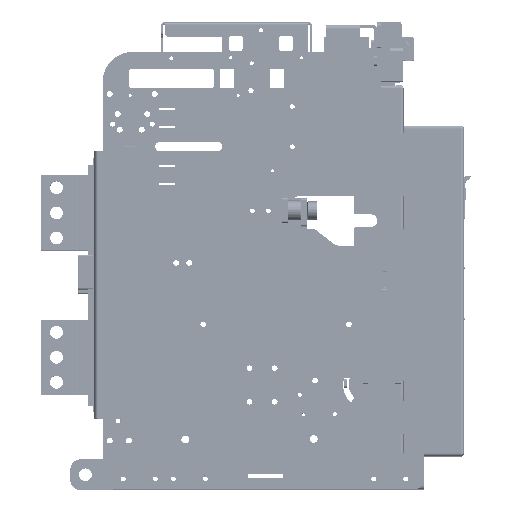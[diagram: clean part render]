
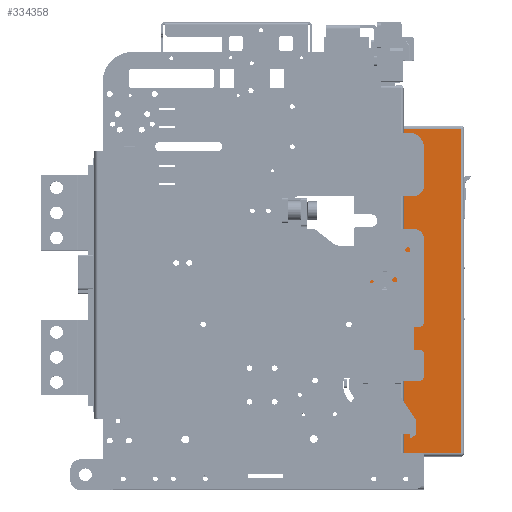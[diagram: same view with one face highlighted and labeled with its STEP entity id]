
A CAD part, top view. The second image highlights one B-rep face of the part: STEP entity #334358.
In plain terms, the highlighted planar face has unit normal (0, 0, 1) as drawn and (-1, 0, 0) by its records, which use the part's own axes.
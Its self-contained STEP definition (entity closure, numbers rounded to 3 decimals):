
#316687=DIRECTION('',(0.,0.,1.));
#316688=VECTOR('',#316687,34.);
#316689=CARTESIAN_POINT('',(-135.,-0.25,13.));
#316690=LINE('',#316689,#316688);
#316691=DIRECTION('',(0.,0.,-1.));
#316692=VECTOR('',#316691,57.);
#316693=CARTESIAN_POINT('',(-135.,148.35,106.));
#316694=LINE('',#316693,#316692);
#316695=DIRECTION('',(0.,-1.,0.));
#316696=VECTOR('',#316695,324.);
#316697=CARTESIAN_POINT('',(-135.,148.35,106.));
#316698=LINE('',#316697,#316696);
#316699=DIRECTION('',(0.,0.,-1.));
#316700=VECTOR('',#316699,57.);
#316701=CARTESIAN_POINT('',(-135.,-175.65,106.));
#316702=LINE('',#316701,#316700);
#316703=DIRECTION('',(0.,0.,1.));
#316704=VECTOR('',#316703,34.);
#316705=CARTESIAN_POINT('',(-135.,-6.65,13.));
#316706=LINE('',#316705,#316704);
#316717=CARTESIAN_POINT('',(-135.,-0.25,47.));
#316718=CARTESIAN_POINT('',(-135.,0.171,47.281));
#316719=CARTESIAN_POINT('',(-135.,0.981,47.819));
#316720=CARTESIAN_POINT('',(-135.,2.174,48.476));
#316721=CARTESIAN_POINT('',(-135.,3.346,48.901));
#316722=CARTESIAN_POINT('',(-135.,4.081,49.));
#316723=CARTESIAN_POINT('',(-135.,4.44,49.));
#317048=DIRECTION('',(0.,-1.,0.));
#317049=VECTOR('',#317048,164.31);
#317050=CARTESIAN_POINT('',(-135.,-11.34,49.));
#317051=LINE('',#317050,#317049);
#317073=DIRECTION('',(0.,-1.,0.));
#317074=VECTOR('',#317073,143.91);
#317075=CARTESIAN_POINT('',(-135.,148.35,49.));
#317076=LINE('',#317075,#317074);
#322656=DIRECTION('',(0.,-1.,0.));
#322657=VECTOR('',#322656,6.4);
#322658=CARTESIAN_POINT('',(-135.,-0.25,13.));
#322659=LINE('',#322658,#322657);
#322752=CARTESIAN_POINT('',(-135.,-11.34,49.));
#322753=CARTESIAN_POINT('',(-135.,-10.981,49.));
#322754=CARTESIAN_POINT('',(-135.,-10.245,48.901));
#322755=CARTESIAN_POINT('',(-135.,-9.073,48.476));
#322756=CARTESIAN_POINT('',(-135.,-7.881,47.819));
#322757=CARTESIAN_POINT('',(-135.,-7.071,47.281));
#322758=CARTESIAN_POINT('',(-135.,-6.65,47.));
#325733=CARTESIAN_POINT('',(-135.,-175.65,106.));
#325735=VERTEX_POINT('',#325733);
#325759=CARTESIAN_POINT('',(-135.,-175.65,49.));
#325760=VERTEX_POINT('',#325759);
#325763=CARTESIAN_POINT('',(-135.,148.35,106.));
#325764=VERTEX_POINT('',#325763);
#325781=CARTESIAN_POINT('',(-135.,148.35,49.));
#325782=VERTEX_POINT('',#325781);
#327616=CARTESIAN_POINT('',(-135.,-0.25,13.));
#327618=VERTEX_POINT('',#327616);
#327621=CARTESIAN_POINT('',(-135.,-6.65,13.));
#327623=VERTEX_POINT('',#327621);
#327933=CARTESIAN_POINT('',(-135.,-11.34,49.));
#327935=VERTEX_POINT('',#327933);
#327937=CARTESIAN_POINT('',(-135.,-6.65,47.));
#327939=VERTEX_POINT('',#327937);
#327957=CARTESIAN_POINT('',(-135.,-0.25,47.));
#327959=VERTEX_POINT('',#327957);
#327961=CARTESIAN_POINT('',(-135.,4.44,49.));
#327963=VERTEX_POINT('',#327961);
#334332=CARTESIAN_POINT('',(-135.,151.35,49.));
#334333=DIRECTION('',(-1.,0.,0.));
#334334=DIRECTION('',(0.,-1.,0.));
#334335=AXIS2_PLACEMENT_3D('',#334332,#334333,#334334);
#334336=PLANE('',#334335);
#334338=ORIENTED_EDGE('',*,*,#334337,.T.);
#334340=ORIENTED_EDGE('',*,*,#334339,.T.);
#334342=ORIENTED_EDGE('',*,*,#334341,.F.);
#334344=ORIENTED_EDGE('',*,*,#334343,.F.);
#334345=ORIENTED_EDGE('',*,*,#334324,.T.);
#334347=ORIENTED_EDGE('',*,*,#334346,.T.);
#334349=ORIENTED_EDGE('',*,*,#334348,.F.);
#334351=ORIENTED_EDGE('',*,*,#334350,.T.);
#334353=ORIENTED_EDGE('',*,*,#334352,.F.);
#334355=ORIENTED_EDGE('',*,*,#334354,.F.);
#334356=EDGE_LOOP('',(#334338,#334340,#334342,#334344,#334345,#334347,#334349,
#334351,#334353,#334355));
#334357=FACE_OUTER_BOUND('',#334356,.F.);
#334358=ADVANCED_FACE('',(#334357),#334336,.T.);
#316724=B_SPLINE_CURVE_WITH_KNOTS('',3,(#316717,#316718,#316719,#316720,#316721,
#316722,#316723),.UNSPECIFIED.,.F.,.F.,(4,1,1,1,4),(0.,0.25,0.5,0.75,
1.),.UNSPECIFIED.);
#322759=B_SPLINE_CURVE_WITH_KNOTS('',3,(#322752,#322753,#322754,#322755,#322756,
#322757,#322758),.UNSPECIFIED.,.F.,.F.,(4,1,1,1,4),(0.,0.25,0.5,0.75,
1.),.UNSPECIFIED.);
#334324=EDGE_CURVE('',#325764,#325735,#316698,.T.);
#334337=EDGE_CURVE('',#327618,#327959,#316690,.T.);
#334339=EDGE_CURVE('',#327959,#327963,#316724,.T.);
#334341=EDGE_CURVE('',#325782,#327963,#317076,.T.);
#334343=EDGE_CURVE('',#325764,#325782,#316694,.T.);
#334346=EDGE_CURVE('',#325735,#325760,#316702,.T.);
#334348=EDGE_CURVE('',#327935,#325760,#317051,.T.);
#334350=EDGE_CURVE('',#327935,#327939,#322759,.T.);
#334352=EDGE_CURVE('',#327623,#327939,#316706,.T.);
#334354=EDGE_CURVE('',#327618,#327623,#322659,.T.);
